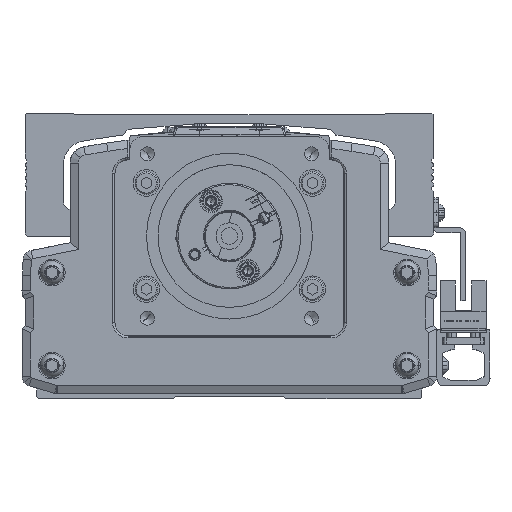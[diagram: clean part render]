
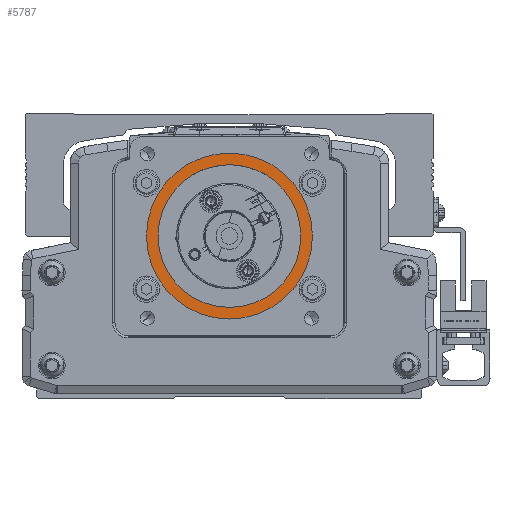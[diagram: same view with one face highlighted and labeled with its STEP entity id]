
A CAD part, front view. The second image highlights one B-rep face of the part: STEP entity #5787.
In plain terms, the highlighted planar face has unit normal (0, -1, 0).
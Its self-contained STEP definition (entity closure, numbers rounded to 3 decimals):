
#5787=ADVANCED_FACE('',(#14295,#14296),#14297,.T.);
#14295=FACE_BOUND('',#26797,.T.);
#14296=FACE_OUTER_BOUND('',#26798,.T.);
#14297=PLANE('',#26799);
#26797=EDGE_LOOP('',(#44697,#44698));
#26798=EDGE_LOOP('',(#44699,#44700));
#26799=AXIS2_PLACEMENT_3D('',#44701,#44702,#44703);
#44697=ORIENTED_EDGE('',*,*,#75024,.F.);
#44698=ORIENTED_EDGE('',*,*,#75025,.F.);
#44699=ORIENTED_EDGE('',*,*,#75026,.F.);
#44700=ORIENTED_EDGE('',*,*,#75027,.F.);
#44701=CARTESIAN_POINT('',(-300.,-335.778,0.));
#44702=DIRECTION('',(0.,-1.0,0.));
#44703=DIRECTION('',(1.0,0.,0.));
#75024=EDGE_CURVE('',#91239,#91240,#91241,.T.);
#75025=EDGE_CURVE('',#91240,#91239,#91242,.T.);
#75026=EDGE_CURVE('',#91243,#91244,#91245,.T.);
#75027=EDGE_CURVE('',#91244,#91243,#91246,.T.);
#91239=VERTEX_POINT('',#113251);
#91240=VERTEX_POINT('',#113252);
#91241=CIRCLE('',#113253,21.5);
#91242=CIRCLE('',#113254,21.5);
#91243=VERTEX_POINT('',#113255);
#91244=VERTEX_POINT('',#113256);
#91245=CIRCLE('',#113257,25.0);
#91246=CIRCLE('',#113258,25.0);
#113251=CARTESIAN_POINT('',(-278.5,-335.778,0.));
#113252=CARTESIAN_POINT('',(-321.5,-335.778,0.));
#113253=AXIS2_PLACEMENT_3D('',#136075,#136076,#136077);
#113254=AXIS2_PLACEMENT_3D('',#136078,#136079,#136080);
#113255=CARTESIAN_POINT('',(-275.,-335.778,0.));
#113256=CARTESIAN_POINT('',(-325.,-335.778,0.));
#113257=AXIS2_PLACEMENT_3D('',#136081,#136082,#136083);
#113258=AXIS2_PLACEMENT_3D('',#136084,#136085,#136086);
#136075=CARTESIAN_POINT('',(-300.,-335.778,0.));
#136076=DIRECTION('',(0.,-1.0,0.));
#136077=DIRECTION('',(1.0,0.,0.));
#136078=CARTESIAN_POINT('',(-300.,-335.778,0.));
#136079=DIRECTION('',(0.,-1.0,0.));
#136080=DIRECTION('',(1.0,0.,0.));
#136081=CARTESIAN_POINT('',(-300.,-335.778,0.));
#136082=DIRECTION('',(0.,1.0,0.));
#136083=DIRECTION('',(1.0,0.,0.));
#136084=CARTESIAN_POINT('',(-300.,-335.778,0.));
#136085=DIRECTION('',(0.,1.0,0.));
#136086=DIRECTION('',(1.0,0.,0.));
